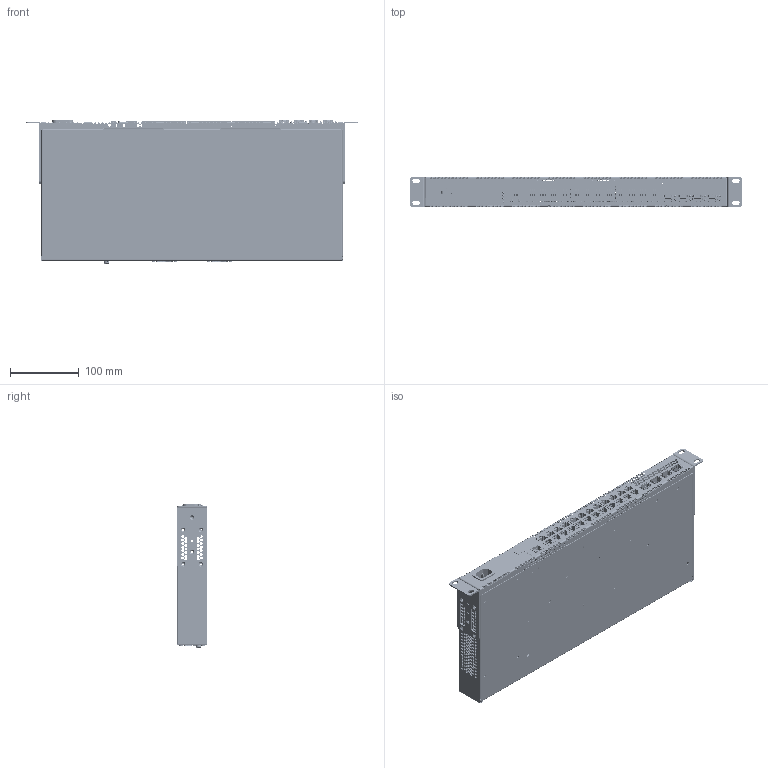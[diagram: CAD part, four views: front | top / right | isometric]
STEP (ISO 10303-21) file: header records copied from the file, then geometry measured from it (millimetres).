
FILE_DESCRIPTION (( 'STEP AP214' ), '1' );
FILE_NAME ('_MES2300-24PAC-NB1.STEP', '2025-04-04T07:16:37', ( '' ), ( '' ), 'SwSTEP 2.0', 'SolidWorks 2023', '' );
FILE_SCHEMA (( 'AUTOMOTIVE_DESIGN' ));
Length unit declared in the file: millimetre
Products named in the file (30): _KF0420_KF0420B1HS-R; _SM-IND-01 (1v1) СБ; _ПП MES2300-24P (1v2); _MES2300-24PAC.1v1(0).19.1.010; _MES2300-24PAC.1v1(0).19.1.000_MES2300-24PAC(0).19.1.000; _IT1127_IT1127_TSTP4548-250AH; _MES2300-24PAC.1v1(0).19.1.011; _DIN7985 M3_M3x25; _MES2300-24PAC.1v1(0).19.1.021_MES2324PAC.19.1.021; _LED2X1RYG_55307XXF_LED2X1RYG_55307XXF_FLR-32W04P (model); _SC36_SC36_SC36-11CGKWA; _RJ45_1X1_LPJE106XCNL-3; _LOGOTIP_ELTEX_LOGOTIP_ELTEX; _MES2300-24PAC.1v1(0).19.1.020; _MES2300-24PAC.1v1(0).19.1.001_MES2300-24PAC.1v0(0).19.1.001; _ПП SM-IND-01 (1v1); _MES2300-24PAC-NB1; _DIN6798 А_DIN 6798A-4.3; _IND4PIPE.001 (2020.08.13)_default; _IND4PIPE.000 (2020.08.13); _SC9R1_SC9R1; _SFP_CAGE_1X1_SFP_CAGE_1X1; _IND4PIPE.002 (2020.08.13)_clear; _SM7240A (platan); _FLANGE.01.005.ХХХ_RAL7035; _SPM380-220x56 rev.C (4v0) СБ_Плата; _DIN7985 M4_DIN7985 M4x10; _SFP_CON_SFP_CON_TYCO 1367073; _ПП spm380220x56 rev.c (4v0); _RJ45_2X4_8P8C_WL_RJ45_2X4_8P8C_WL_kingsun 3027s-48831 v2
Assembly tree (52 placements, depth 4):
  _LOGOTIP_ELTEX_LOGOTIP_ELTEX
  _MES2300-24PAC-NB1
    _SM-IND-01 (1v1) СБ
      _ПП SM-IND-01 (1v1)
        _IT1127_IT1127_TSTP4548-250AH
        _SC36_SC36_SC36-11CGKWA
      _IND4PIPE.000 (2020.08.13)
        _IND4PIPE.001 (2020.08.13)_default
        _IND4PIPE.002 (2020.08.13)_clear  x4
    _SPM380-220x56 rev.C (4v0) СБ_Плата
      _ПП spm380220x56 rev.c (4v0)
        _SC9R1_SC9R1
    _ПП MES2300-24P (1v2)
      _RJ45_2X4_8P8C_WL_RJ45_2X4_8P8C_WL_kingsun 3027s-48831 v2  x3
      _SFP_CON_SFP_CON_TYCO 1367073  x4
      _RJ45_1X1_LPJE106XCNL-3
      _LED2X1RYG_55307XXF_LED2X1RYG_55307XXF_FLR-32W04P (model)  x4
      _SFP_CAGE_1X1_SFP_CAGE_1X1  x4
    _MES2300-24PAC.1v1(0).19.1.000_MES2300-24PAC(0).19.1.000
      _MES2300-24PAC.1v1(0).19.1.010
        _MES2300-24PAC.1v1(0).19.1.011
      _MES2300-24PAC.1v1(0).19.1.001_MES2300-24PAC.1v0(0).19.1.001
      _MES2300-24PAC.1v1(0).19.1.020
        _MES2300-24PAC.1v1(0).19.1.021_MES2324PAC.19.1.021
      _FLANGE.01.005.ХХХ_RAL7035  x2
    _KF0420_KF0420B1HS-R  x2
    _SM7240A (platan)  x2
    _DIN7985 M3_M3x25  x8
    _DIN6798 А_DIN 6798A-4.3
    _DIN7985 M4_DIN7985 M4x10
Bounding box: 482.6 x 43.6 x 209.62 mm (x, y, z)
Volume: 405094.9 mm3; surface area: 599561.6 mm2
Topology: 48 solids, 48 shells, 18418 faces, 52372 edges, 33906 vertices
Faces by surface type: plane 11994, cylinder 4210, cone 1864, bspline 232, torus 100, sphere 18
Entity records: 296837 total; most frequent: CARTESIAN_POINT 58062, ORIENTED_EDGE 51156, DIRECTION 46695, EDGE_CURVE 25578, LINE 20915, VECTOR 20915, VERTEX_POINT 16469, AXIS2_PLACEMENT_3D 12890
